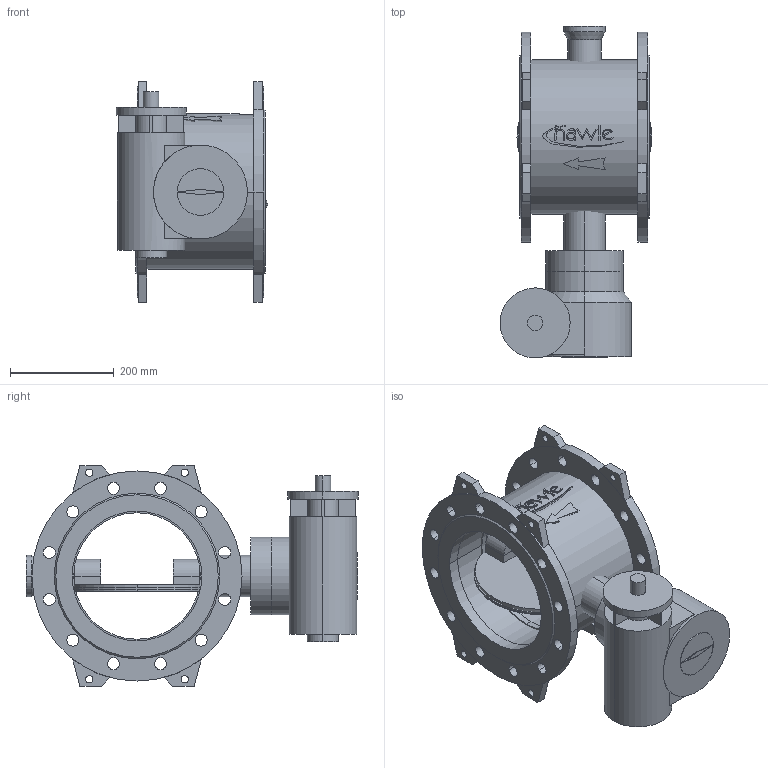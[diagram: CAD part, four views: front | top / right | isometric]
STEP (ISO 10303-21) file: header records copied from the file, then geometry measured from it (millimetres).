
FILE_DESCRIPTION(('STEP AP214'),'1');
FILE_NAME('S:/EK/USER/CAT6/3DHomepage_27-04-2012/neu_08-01-2013/9881K/9881K_PN10_DN250.STP','2013-02-26T15:31:51',(' '),(' '),'Spatial InterOp 3D',' ',' ');
FILE_SCHEMA(('automotive_design'));
Length unit declared in the file: millimetre
Products named in the file (46): 3D-Objekt
Bounding box: 292.5 x 640 x 426 mm (x, y, z)
Volume: 16564543.6 mm3; surface area: 1593439.4 mm2
Topology: 46 solids, 46 shells, 369 faces, 820 edges, 546 vertices
Faces by surface type: plane 196, cylinder 165, cone 8
Entity records: 14616 total; most frequent: DIRECTION 2000, CARTESIAN_POINT 1906, ORIENTED_EDGE 1640, EDGE_CURVE 820, AXIS2_PLACEMENT_3D 766, VERTEX_POINT 546, LINE 468, VECTOR 468
